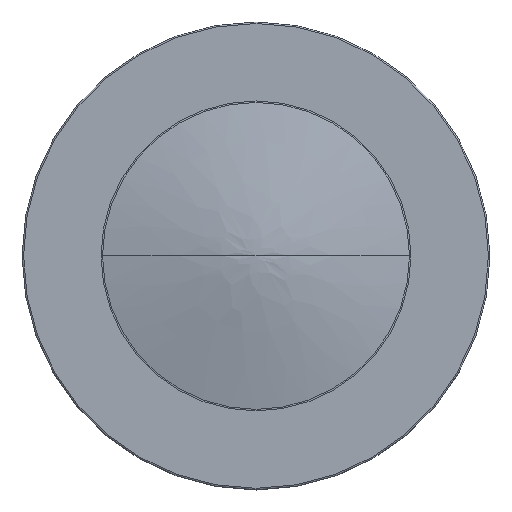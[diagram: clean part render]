
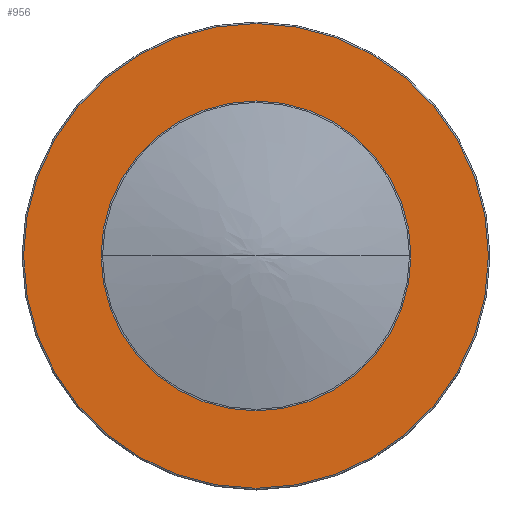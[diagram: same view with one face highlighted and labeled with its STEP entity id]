
A CAD part, top view. The second image highlights one B-rep face of the part: STEP entity #956.
In plain terms, the highlighted planar face has unit normal (0, 0, 1).
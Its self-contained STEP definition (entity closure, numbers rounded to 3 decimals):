
#11=CARTESIAN_POINT('',(0.,0.,2.864));
#12=DIRECTION('',(0.,0.,1.));
#13=DIRECTION('',(-1.,0.,0.));
#14=AXIS2_PLACEMENT_3D('',#11,#12,#13);
#16=CARTESIAN_POINT('',(0.,0.,2.864));
#17=DIRECTION('',(0.,0.,1.));
#18=DIRECTION('',(1.,0.,0.));
#19=AXIS2_PLACEMENT_3D('',#16,#17,#18);
#21=CARTESIAN_POINT('',(0.,0.,2.864));
#22=DIRECTION('',(0.,0.,-1.));
#23=DIRECTION('',(1.,0.,0.));
#24=AXIS2_PLACEMENT_3D('',#21,#22,#23);
#26=CARTESIAN_POINT('',(0.,0.,2.864));
#27=DIRECTION('',(0.,0.,-1.));
#28=DIRECTION('',(-1.,0.,0.));
#29=AXIS2_PLACEMENT_3D('',#26,#27,#28);
#750=CARTESIAN_POINT('',(3.143,0.,2.864));
#751=CARTESIAN_POINT('',(-3.143,0.,2.864));
#752=VERTEX_POINT('',#750);
#753=VERTEX_POINT('',#751);
#754=CARTESIAN_POINT('',(-2.095,0.,
2.864));
#755=CARTESIAN_POINT('',(2.095,0.,2.864));
#756=VERTEX_POINT('',#754);
#757=VERTEX_POINT('',#755);
#940=CARTESIAN_POINT('',(0.,0.,2.864));
#941=DIRECTION('',(0.,0.,1.));
#942=DIRECTION('',(-1.,0.,0.));
#943=AXIS2_PLACEMENT_3D('',#940,#941,#942);
#944=PLANE('',#943);
#946=ORIENTED_EDGE('',*,*,#945,.T.);
#948=ORIENTED_EDGE('',*,*,#947,.T.);
#949=EDGE_LOOP('',(#946,#948));
#950=FACE_OUTER_BOUND('',#949,.F.);
#952=ORIENTED_EDGE('',*,*,#951,.T.);
#953=ORIENTED_EDGE('',*,*,#930,.T.);
#954=EDGE_LOOP('',(#952,#953));
#955=FACE_BOUND('',#954,.F.);
#956=ADVANCED_FACE('',(#950,#955),#944,.T.);
#15=CIRCLE('',#14,2.095);
#20=CIRCLE('',#19,2.095);
#25=CIRCLE('',#24,3.143);
#30=CIRCLE('',#29,3.143);
#930=EDGE_CURVE('',#757,#756,#20,.T.);
#945=EDGE_CURVE('',#752,#753,#25,.T.);
#947=EDGE_CURVE('',#753,#752,#30,.T.);
#951=EDGE_CURVE('',#756,#757,#15,.T.);
